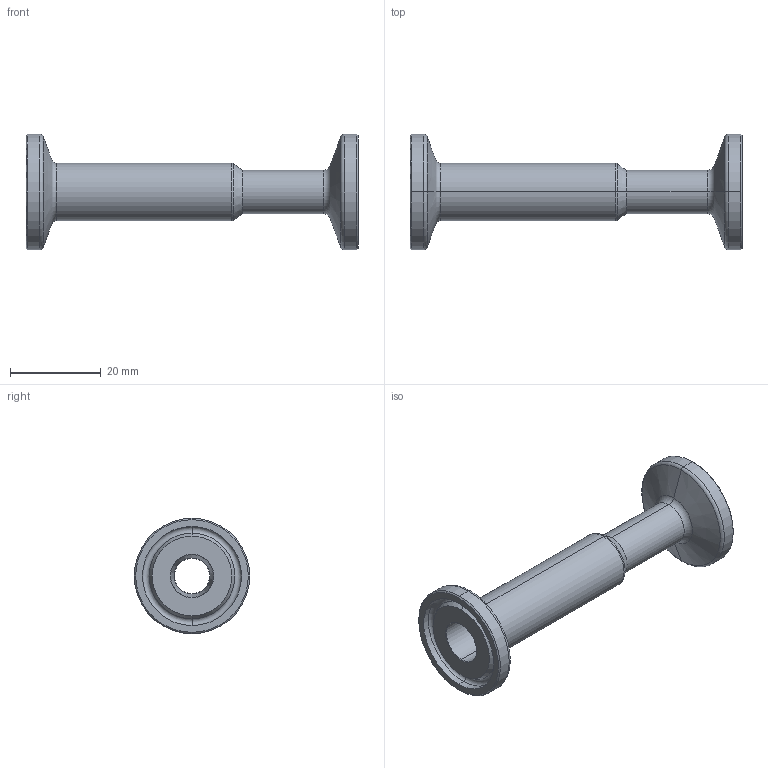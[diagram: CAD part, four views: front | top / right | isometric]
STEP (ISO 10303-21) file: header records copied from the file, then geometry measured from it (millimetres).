
FILE_DESCRIPTION (( 'STEP AP214' ), '1' );
FILE_NAME ('TEG31SCC6I.5x.375.STEP', '2016-05-29T13:13:40', ( 'eran' ), ( '' ), 'SwSTEP 2.0', 'SolidWorks 2016', '' );
FILE_SCHEMA (( 'AUTOMOTIVE_DESIGN' ));
Length unit declared in the file: millimetre
Products named in the file (1): TEG31SCC6I.5x.375
Bounding box: 73.03 x 25.4 x 25.4 mm (x, y, z)
Volume: 7125.7 mm3; surface area: 6662 mm2
Topology: 1 solids, 1 shells, 54 faces, 108 edges, 58 vertices
Faces by surface type: cone 18, torus 16, cylinder 16, plane 4
Entity records: 1428 total; most frequent: DIRECTION 292, CARTESIAN_POINT 221, ORIENTED_EDGE 216, AXIS2_PLACEMENT_3D 129, EDGE_CURVE 108, CIRCLE 74, VERTEX_POINT 58, EDGE_LOOP 58
